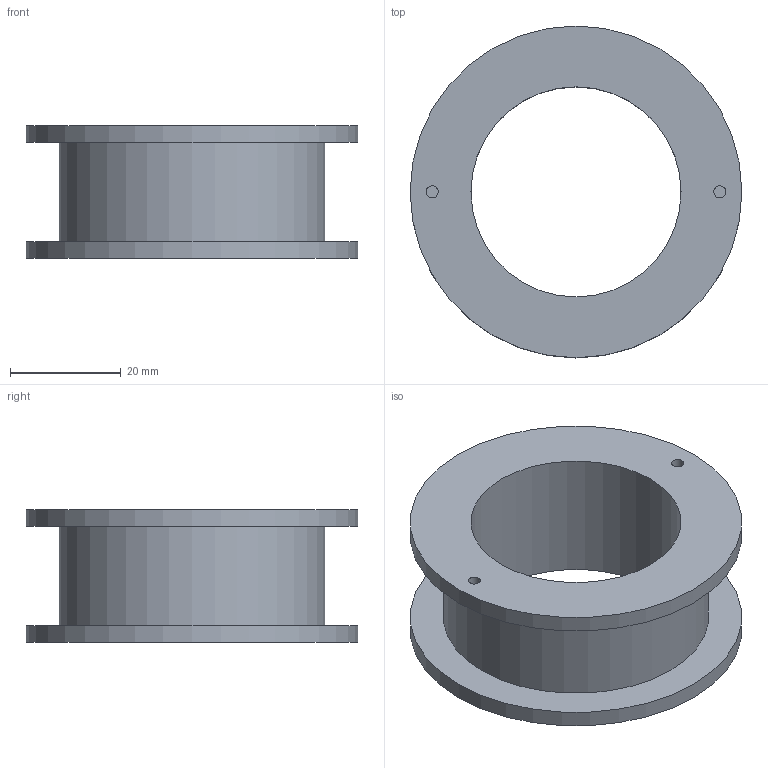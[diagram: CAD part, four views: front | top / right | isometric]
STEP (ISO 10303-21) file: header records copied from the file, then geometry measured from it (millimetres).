
FILE_DESCRIPTION(('Open CASCADE Model'),'2;1');
FILE_NAME('Open CASCADE Shape Model','2026-10-16T03:41:05',('Author'),( 'Open CASCADE'),'Open CASCADE STEP processor 7.9','Open CASCADE 7.9' ,'Unknown');
FILE_SCHEMA(('AUTOMOTIVE_DESIGN { 1 0 10303 214 1 1 1 1 }'));
Length unit declared in the file: millimetre
Products named in the file (1): Open CASCADE STEP translator 7.9 1
Bounding box: 60 x 60 x 24 mm (x, y, z)
Volume: 22295.1 mm3; surface area: 12159.1 mm2
Topology: 1 solids, 1 shells, 10 faces, 18 edges, 12 vertices
Faces by surface type: cylinder 6, plane 4
Full cylindrical faces by diameter (mm): 2.2 x2, 38 x1, 48 x1, 60 x2
Entity records: 510 total; most frequent: DIRECTION 88, CARTESIAN_POINT 77, ORIENTED_EDGE 36, PCURVE 36, DEFINITIONAL_REPRESENTATION 36, LINE 30, VECTOR 30, CIRCLE 24
